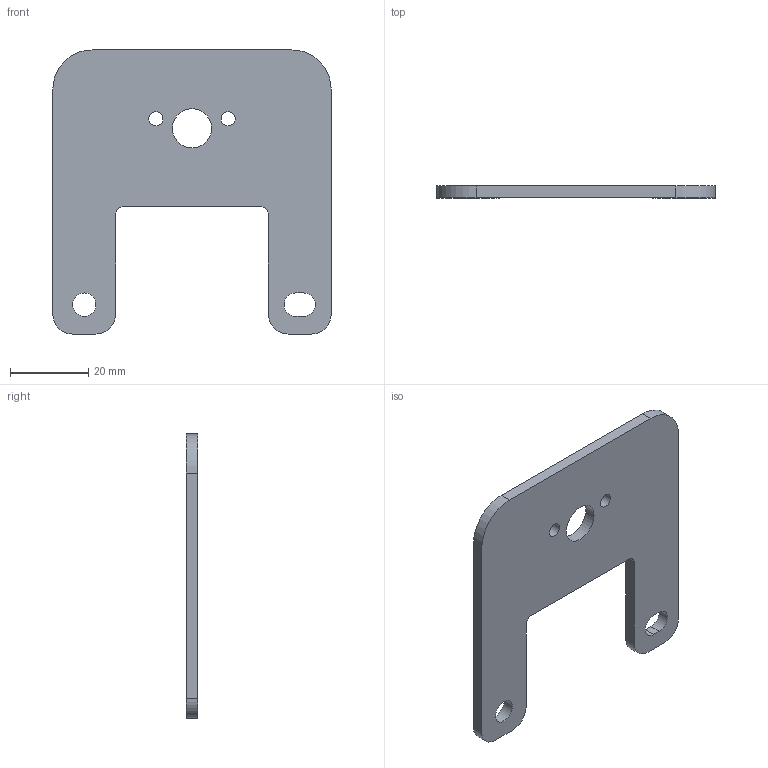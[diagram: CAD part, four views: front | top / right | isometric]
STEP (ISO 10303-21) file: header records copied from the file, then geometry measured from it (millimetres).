
FILE_DESCRIPTION(/* description */ (''),/* implementation_level */ '2;1');
FILE_NAME(/* name */ 'C:/Users/mciuntu/Documents/3d printing/Diesel Switch 3D files/Diesel Switch OBD Bracket Bottom Mount v3.step',/* time_stamp */ '2021-05-12T16:58:36-05:00',/* author */ (''),/* organization */ (''),/* preprocessor_version */ 'ST-DEVELOPER v18.1',/* originating_system */ 'Autodesk Translation Framework v10.6.0.1341',/* authorisation */ '');
FILE_SCHEMA (('AUTOMOTIVE_DESIGN { 1 0 10303 214 3 1 1 }'));
Length unit declared in the file: millimetre
Products named in the file (1): Diesel Switch OBD Bracket Bottom Mount
Bounding box: 71 x 3 x 72.5 mm (x, y, z)
Volume: 10868.4 mm3; surface area: 8680.2 mm2
Topology: 1 solids, 1 shells, 235 faces, 669 edges, 446 vertices
Faces by surface type: bspline 119, plane 102, cylinder 14
Full cylindrical faces by diameter (mm): 3.6 x2, 6 x1, 10 x1
Entity records: 7921 total; most frequent: CARTESIAN_POINT 2898, ORIENTED_EDGE 1338, DIRECTION 693, EDGE_CURVE 669, VERTEX_POINT 446, LINE 403, VECTOR 403, EDGE_LOOP 255
